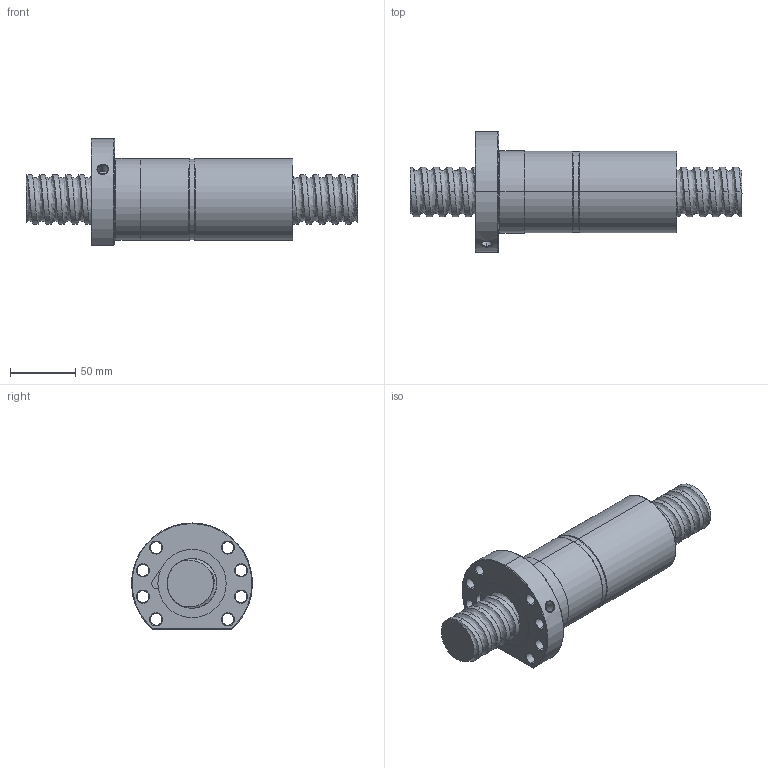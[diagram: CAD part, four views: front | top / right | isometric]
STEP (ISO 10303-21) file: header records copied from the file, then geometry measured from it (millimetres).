
FILE_DESCRIPTION (( 'STEP AP214' ), '1' );
FILE_NAME ('FDDC03810T5-F-B.STEP', '2010-07-07T02:17:57', ( 'XPAUTO' ), ( 'XPAUTO' ), 'SwSTEP 2.0', 'SolidWorks 2007', '' );
FILE_SCHEMA (( 'AUTOMOTIVE_DESIGN' ));
Products named in the file (3): FDDC03810T5-F-B; FDDC03810T5-F-B.sldasm-Part-2_預設; FDDC03810T5-F-B.sldasm-Part-1_預設
Assembly tree (2 placements, depth 2):
  FDDC03810T5-F-B
    FDDC03810T5-F-B.sldasm-Part-2_預設
    FDDC03810T5-F-B.sldasm-Part-1_預設
Bounding box: 255 x 92.99 x 81.5 mm (x, y, z)
Volume: 606461.3 mm3; surface area: 103052.4 mm2
Topology: 2 solids, 2 shells, 161 faces, 404 edges, 252 vertices
Faces by surface type: cylinder 96, cone 32, plane 19, torus 9, bspline 5
Entity records: 46497 total; most frequent: CARTESIAN_POINT 42693, ORIENTED_EDGE 808, DIRECTION 730, EDGE_CURVE 404, AXIS2_PLACEMENT_3D 295, VERTEX_POINT 252, EDGE_LOOP 186, FACE_OUTER_BOUND 161
